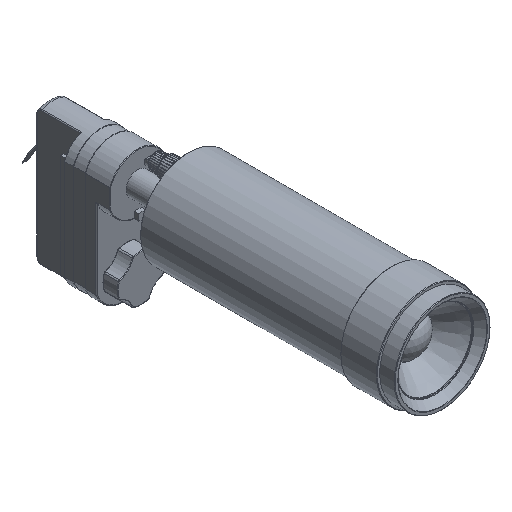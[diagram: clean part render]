
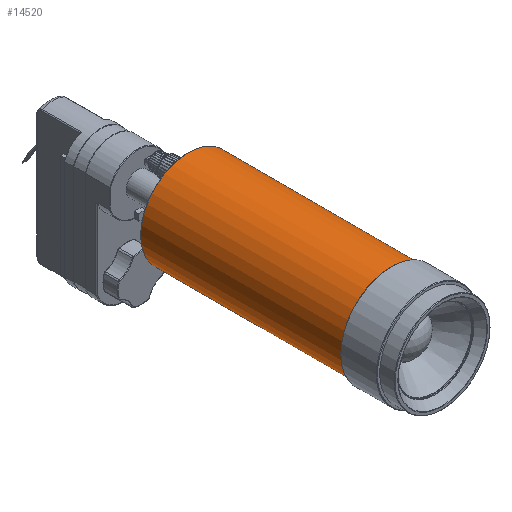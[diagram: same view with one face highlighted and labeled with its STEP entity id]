
A CAD part, isometric view. The second image highlights one B-rep face of the part: STEP entity #14520.
In plain terms, the highlighted cylindrical face has radius 28.6 mm (diameter 57.2 mm), a full revolution.
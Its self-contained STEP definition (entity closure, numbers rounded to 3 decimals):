
#948 = CARTESIAN_POINT ( 'NONE',  ( 0., 0., 0. ) ) ;
#2962 = AXIS2_PLACEMENT_3D ( 'NONE', #25365, #20627, #20470 ) ;
#3463 = FACE_OUTER_BOUND ( 'NONE', #19980, .T. ) ;
#4193 = CIRCLE ( 'NONE', #14714, 28.6 ) ;
#6066 = DIRECTION ( 'NONE',  ( 0., 0., -1. ) ) ;
#7502 = EDGE_LOOP ( 'NONE', ( #21174 ) ) ;
#10459 = AXIS2_PLACEMENT_3D ( 'NONE', #948, #14947, #22051 ) ;
#11104 = DIRECTION ( 'NONE',  ( 0., -1., 0. ) ) ;
#12420 = FACE_OUTER_BOUND ( 'NONE', #7502, .T. ) ;
#13793 = ORIENTED_EDGE ( 'NONE', *, *, #23476, .F. ) ;
#14520 = ADVANCED_FACE ( 'NONE', ( #12420, #3463 ), #22688, .T. ) ;
#14714 = AXIS2_PLACEMENT_3D ( 'NONE', #23220, #11104, #6066 ) ;
#14947 = DIRECTION ( 'NONE',  ( 0., -1., 0. ) ) ;
#18056 = CIRCLE ( 'NONE', #2962, 28.6 ) ;
#18560 = VERTEX_POINT ( 'NONE', #28202 ) ;
#19980 = EDGE_LOOP ( 'NONE', ( #13793 ) ) ;
#20470 = DIRECTION ( 'NONE',  ( 0., 0., -1. ) ) ;
#20627 = DIRECTION ( 'NONE',  ( 0., -1., 0. ) ) ;
#20938 = CARTESIAN_POINT ( 'NONE',  ( 0., 30.8, -28.6 ) ) ;
#21174 = ORIENTED_EDGE ( 'NONE', *, *, #21586, .T. ) ;
#21586 = EDGE_CURVE ( 'NONE', #18560, #18560, #4193, .T. ) ;
#22051 = DIRECTION ( 'NONE',  ( 0., 0., -1. ) ) ;
#22688 = CYLINDRICAL_SURFACE ( 'NONE', #10459, 28.6 ) ;
#23220 = CARTESIAN_POINT ( 'NONE',  ( 0., 151.7, 0. ) ) ;
#23476 = EDGE_CURVE ( 'NONE', #25683, #25683, #18056, .T. ) ;
#25365 = CARTESIAN_POINT ( 'NONE',  ( 0., 30.8, 0. ) ) ;
#25683 = VERTEX_POINT ( 'NONE', #20938 ) ;
#28202 = CARTESIAN_POINT ( 'NONE',  ( 0., 151.7, -28.6 ) ) ;
